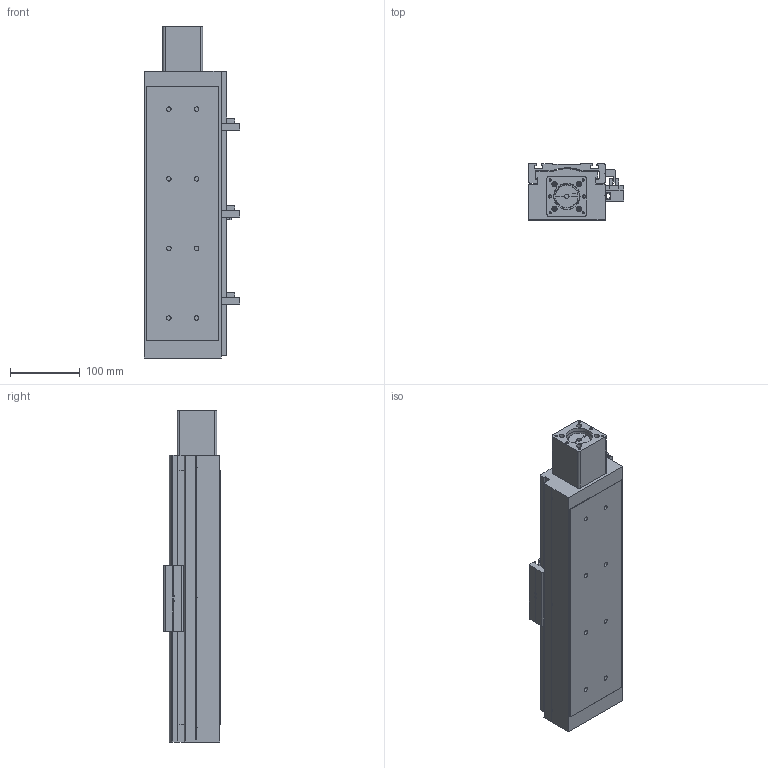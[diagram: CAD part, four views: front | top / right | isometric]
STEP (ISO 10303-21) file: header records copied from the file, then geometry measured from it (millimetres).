
FILE_DESCRIPTION((''),'2;1');
FILE_NAME('E:\libraries\UIA actuator library 2009\standard actuator\UIA110R12(15)DC\UIA110R12(15)DC-ball screw dia.20\UIA110R12(15)DC-_ _ _-R20_ _-M23 step file 20Apr16\UIA110R12(15)DC-250-R20_ _-M23-P13-C10-S.stp','2016-04-21T11:09:33',('h029'),(''),'Autodesk Inventor 11','Autodesk Inventor 11','');
FILE_SCHEMA(('AUTOMOTIVE_DESIGN { 1 0 10303 214 1 1 1 1 }'));
Length unit declared in the file: millimetre
Products named in the file (10): UIA110R12(15)DC-250, ball screw dia.20; body, UIA110R12(15)DC-250,ball screw dia.20; Carriage, UIA110R12(15)DC; Sen Switch, UIA110R12(15)DC; sensor rail, UIA110R12(15)DC-250; M23 motor mount; SOH-32C; SOH-32C-3; SOH-32C-1; SOH-32C-2
Assembly tree (9 placements, depth 3):
  UIA110R12(15)DC-250, ball screw dia.20
    body, UIA110R12(15)DC-250,ball screw dia.20
    Carriage, UIA110R12(15)DC
    Sen Switch, UIA110R12(15)DC
    sensor rail, UIA110R12(15)DC-250
    M23 motor mount
    SOH-32C
      SOH-32C-3
      SOH-32C-1
      SOH-32C-2
Bounding box: 136.5 x 81 x 477 mm (x, y, z)
Volume: 3323729.4 mm3; surface area: 322714.8 mm2
Topology: 8 solids, 8 shells, 587 faces, 1605 edges, 1048 vertices
Faces by surface type: plane 373, cylinder 115, bspline 81, cone 18
Full cylindrical faces by diameter (mm): 2.459 x3, 3.242 x4, 4 x6, 4.5 x4, 5.5 x3, 6.35 x1, 6.5 x8, 7.5 x4, 9.5 x6, 10 x2, 10.5 x8, 12 x1, 25 x1, 32 x3, 37 x1, 38.1 x1, 42 x1, 42.01 x1, 43.5 x1
Entity records: 19124 total; most frequent: CARTESIAN_POINT 4921, DIRECTION 2837, ORIENTED_EDGE 2776, EDGE_CURVE 1388, VERTEX_POINT 975, VECTOR 951, LINE 951, AXIS2_PLACEMENT_3D 943
